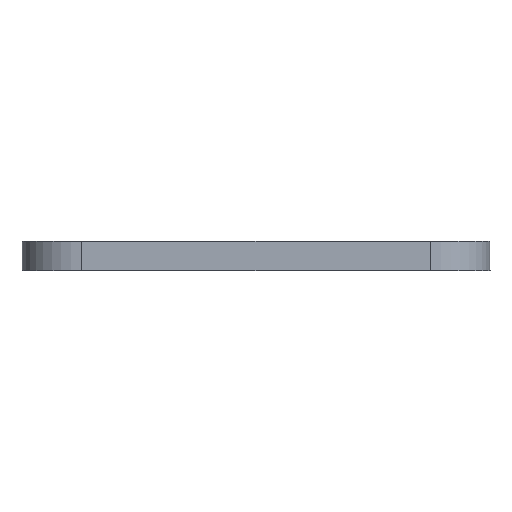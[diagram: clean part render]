
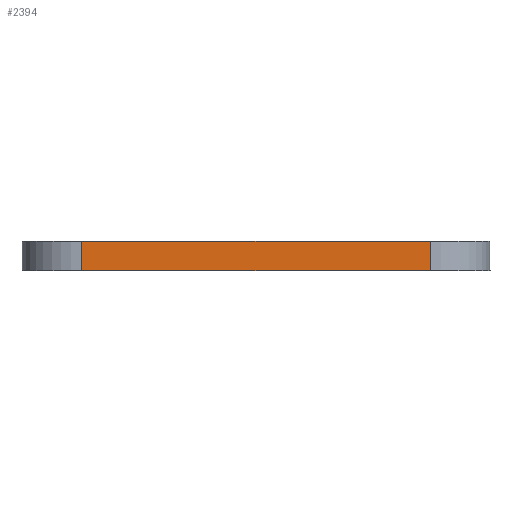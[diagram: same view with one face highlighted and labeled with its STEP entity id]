
A CAD part, front view. The second image highlights one B-rep face of the part: STEP entity #2394.
In plain terms, the highlighted planar face has unit normal (0, -1, 0).
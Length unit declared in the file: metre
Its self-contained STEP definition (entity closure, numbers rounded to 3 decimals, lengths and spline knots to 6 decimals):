
#12=PLANE('',#2532);
#82=LINE('',#3477,#326);
#83=LINE('',#3479,#327);
#84=LINE('',#3481,#328);
#85=LINE('',#3483,#329);
#326=VECTOR('',#2769,1.);
#327=VECTOR('',#2772,1.);
#328=VECTOR('',#2773,1.);
#329=VECTOR('',#2774,1.);
#573=ORIENTED_EDGE('',*,*,#1276,.F.);
#574=ORIENTED_EDGE('',*,*,#1277,.T.);
#575=ORIENTED_EDGE('',*,*,#1278,.F.);
#576=ORIENTED_EDGE('',*,*,#1279,.F.);
#1276=EDGE_CURVE('',#1628,#1625,#82,.T.);
#1277=EDGE_CURVE('',#1628,#1629,#83,.T.);
#1278=EDGE_CURVE('',#1630,#1629,#84,.T.);
#1279=EDGE_CURVE('',#1625,#1630,#85,.T.);
#1625=VERTEX_POINT('',#3471);
#1628=VERTEX_POINT('',#3476);
#1629=VERTEX_POINT('',#3480);
#1630=VERTEX_POINT('',#3482);
#1976=EDGE_LOOP('',(#573,#574,#575,#576));
#2158=FACE_BOUND('',#1976,.T.);
#2394=ADVANCED_FACE('',(#2158),#12,.T.);
#2532=AXIS2_PLACEMENT_3D('',#3478,#2770,#2771);
#2769=DIRECTION('',(0.,0.,-1.));
#2770=DIRECTION('',(0.,-1.,0.));
#2771=DIRECTION('',(-1.,0.,0.));
#2772=DIRECTION('',(-1.,0.,0.));
#2773=DIRECTION('',(0.,0.,1.));
#2774=DIRECTION('',(-1.,0.,0.));
#3471=CARTESIAN_POINT('',(-0.005732,-0.067902,-0.241597));
#3476=CARTESIAN_POINT('',(-0.005732,-0.067902,-0.235597));
#3477=CARTESIAN_POINT('',(-0.005732,-0.067902,-0.235597));
#3478=CARTESIAN_POINT('',(0.006268,-0.067902,-0.235597));
#3479=CARTESIAN_POINT('',(0.006268,-0.067902,-0.235597));
#3480=CARTESIAN_POINT('',(-0.075622,-0.067902,-0.235597));
#3481=CARTESIAN_POINT('',(-0.075622,-0.067902,-0.235597));
#3482=CARTESIAN_POINT('',(-0.075622,-0.067902,-0.241597));
#3483=CARTESIAN_POINT('',(0.006268,-0.067902,-0.241597));
